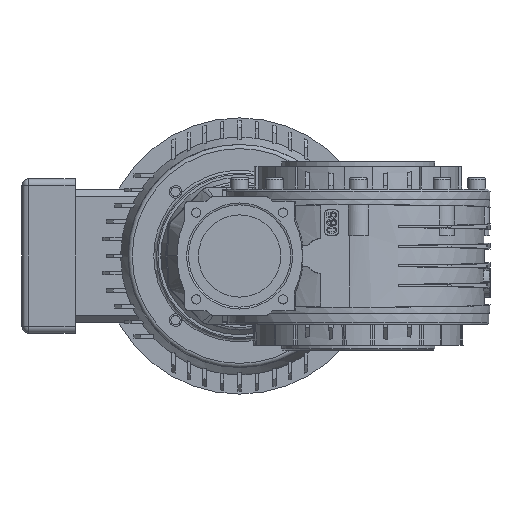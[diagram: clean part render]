
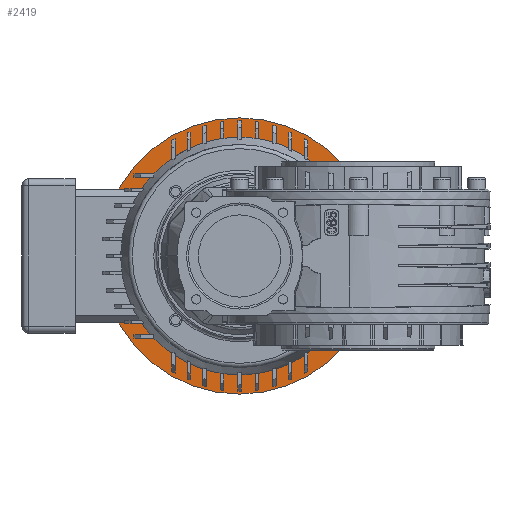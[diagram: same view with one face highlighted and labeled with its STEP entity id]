
A CAD part, left-side view. The second image highlights one B-rep face of the part: STEP entity #2419.
In plain terms, the highlighted planar face has unit normal (-1, 0, 0).
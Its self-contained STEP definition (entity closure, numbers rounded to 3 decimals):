
#2419 = ADVANCED_FACE( '', ( #5796, #5797 ), #5798, .F. );
#5796 = FACE_OUTER_BOUND( '', #12658, .T. );
#5797 = FACE_BOUND( '', #12659, .T. );
#5798 = PLANE( '', #12660 );
#12658 = EDGE_LOOP( '', ( #23555 ) );
#12659 = EDGE_LOOP( '', ( #23556 ) );
#12660 = AXIS2_PLACEMENT_3D( '', #23557, #23558, #23559 );
#23555 = ORIENTED_EDGE( '', *, *, #34096, .F. );
#23556 = ORIENTED_EDGE( '', *, *, #32150, .T. );
#23557 = CARTESIAN_POINT( '', ( 387.5, 85., 0. ) );
#23558 = DIRECTION( '', ( 1., 0., 0. ) );
#23559 = DIRECTION( '', ( 0., 0., 1. ) );
#32150 = EDGE_CURVE( '', #37483, #37483, #37484, .T. );
#34096 = EDGE_CURVE( '', #40672, #40672, #40673, .T. );
#37483 = VERTEX_POINT( '', #46347 );
#37484 = CIRCLE( '', #46348, 85.13 );
#40672 = VERTEX_POINT( '', #52925 );
#40673 = CIRCLE( '', #52926, 99. );
#46347 = CARTESIAN_POINT( '', ( 387.5, 170.13, 0. ) );
#46348 = AXIS2_PLACEMENT_3D( '', #61120, #61121, #61122 );
#52925 = CARTESIAN_POINT( '', ( 387.5, 85., 99. ) );
#52926 = AXIS2_PLACEMENT_3D( '', #63571, #63572, #63573 );
#61120 = CARTESIAN_POINT( '', ( 387.5, 85., 0. ) );
#61121 = DIRECTION( '', ( 1., 0., 0. ) );
#61122 = DIRECTION( '', ( 0., 1., 0. ) );
#63571 = CARTESIAN_POINT( '', ( 387.5, 85., 0. ) );
#63572 = DIRECTION( '', ( 1., 0., 0. ) );
#63573 = DIRECTION( '', ( 0., 0., 1. ) );
